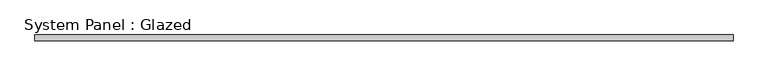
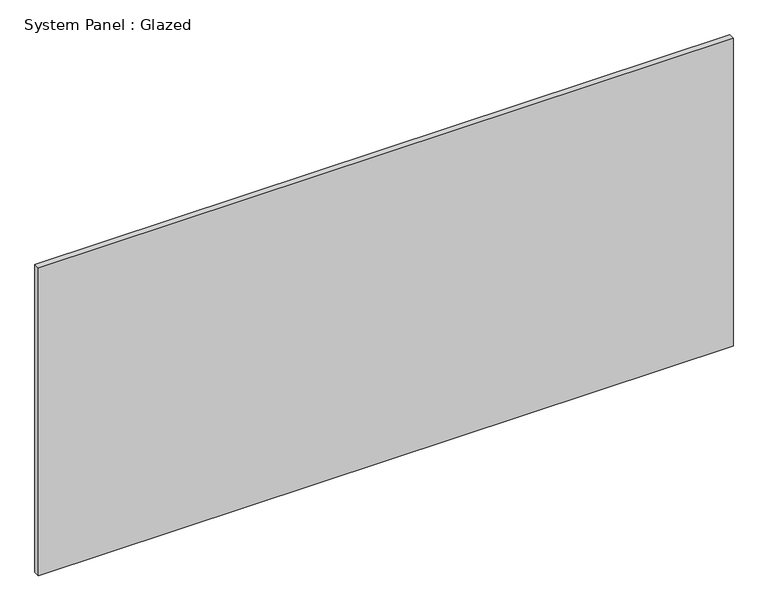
"""IFC4 building model written with IfcOpenShell, lengths in millimetres: plate geometry, System Panel : Glazed."""

from ifc_helpers import new_model, si_unit, origin, origin_with_axes, place, context, project, spatial, polyline, outline, extrude, source, transform, mapped, element, save


def system_panel_glazed_4d54059e(model_context):
    return source(origin(), model_context, "Body", "SweptSolid", [
        extrude(outline(polyline([(1476.3750001, 19.05), (-1476.3750001, 19.05), (-1476.3750001, 44.45), (1476.3750001, 44.45), (1476.3750001, 19.05)])), origin_with_axes(), (0.0, 0.0, 1.0), 1382.9154135),
    ])


if __name__ == "__main__":
    model = new_model("IFC4")
    model_context = context("Model", 3, world=origin())
    ifc_project = project(units=[si_unit("LENGTHUNIT", "METRE", prefix="MILLI")], contexts=[model_context])
    site = spatial("IfcSite", under=ifc_project)
    building = spatial("IfcBuilding", under=site)
    placement = place(None, origin())
    system_panel_glazed_shape = system_panel_glazed_4d54059e(model_context)
    element("IfcPlate", 1, ObjectType="System Panel : Glazed", at=placement, inside=building, context=model_context, shape_type="MappedRepresentation", body=[
        mapped(system_panel_glazed_shape, transform((0.0, 0.0, 0.0), x_axis=(1.0, 0.0, 0.0), y_axis=(0.0, 1.0, 0.0), z_axis=(0.0, 0.0, 1.0))),
    ])
    save(model, "model.ifc")
